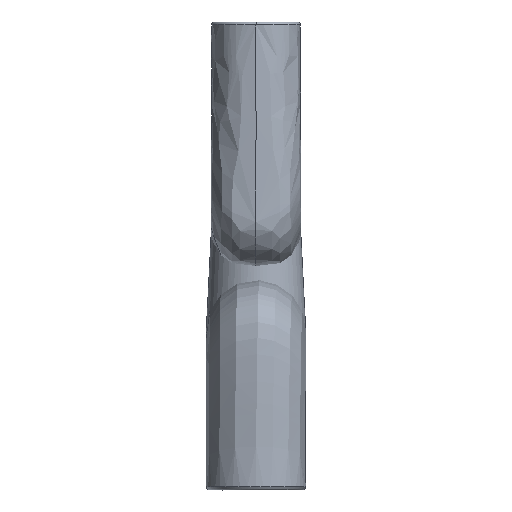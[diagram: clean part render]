
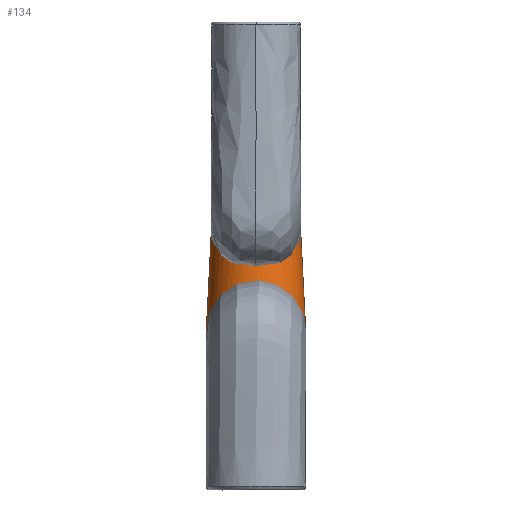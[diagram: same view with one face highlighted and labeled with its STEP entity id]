
A CAD part, left-side view. The second image highlights one B-rep face of the part: STEP entity #134.
In plain terms, the highlighted free-form (B-spline) face has degree [2, 1] with [5, 2] control points.
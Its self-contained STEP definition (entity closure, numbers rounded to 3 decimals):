
#134=ADVANCED_FACE('',(#275),#1949,.T.);
#275=FACE_OUTER_BOUND('',#416,.T.);
#416=EDGE_LOOP('',(#571,#572,#573,#574));
#571=ORIENTED_EDGE('',*,*,#1166,.T.);
#572=ORIENTED_EDGE('',*,*,#1168,.T.);
#573=ORIENTED_EDGE('',*,*,#1164,.F.);
#574=ORIENTED_EDGE('',*,*,#1163,.T.);
#1163=EDGE_CURVE('',#1778,#1780,#1476,.T.);
#1164=EDGE_CURVE('',#1778,#1779,#1477,.T.);
#1166=EDGE_CURVE('',#1780,#1781,#1479,.T.);
#1168=EDGE_CURVE('',#1781,#1779,#1481,.T.);
#1476=(
BOUNDED_CURVE()
B_SPLINE_CURVE(2,(#3004,#3005,#3006,#3007,#3008),.UNSPECIFIED.,.F.,.F.)
B_SPLINE_CURVE_WITH_KNOTS((3,2,3),(0.,79.166,158.332),
 .UNSPECIFIED.)
CURVE()
GEOMETRIC_REPRESENTATION_ITEM()
RATIONAL_B_SPLINE_CURVE((1.,0.707,1.,0.707,1.))
REPRESENTATION_ITEM('')
);
#1477=(
BOUNDED_CURVE()
B_SPLINE_CURVE(1,(#3009,#3010),.UNSPECIFIED.,.F.,.F.)
B_SPLINE_CURVE_WITH_KNOTS((2,2),(0.,106.943),.UNSPECIFIED.)
CURVE()
GEOMETRIC_REPRESENTATION_ITEM()
RATIONAL_B_SPLINE_CURVE((1.,1.))
REPRESENTATION_ITEM('')
);
#1479=(
BOUNDED_CURVE()
B_SPLINE_CURVE(1,(#3016,#3017),.UNSPECIFIED.,.F.,.F.)
B_SPLINE_CURVE_WITH_KNOTS((2,2),(0.,106.943),.UNSPECIFIED.)
CURVE()
GEOMETRIC_REPRESENTATION_ITEM()
RATIONAL_B_SPLINE_CURVE((1.,1.))
REPRESENTATION_ITEM('')
);
#1481=(
BOUNDED_CURVE()
B_SPLINE_CURVE(2,(#3023,#3024,#3025,#3026,#3027),.UNSPECIFIED.,.F.,.F.)
B_SPLINE_CURVE_WITH_KNOTS((3,2,3),(-158.332,-79.166,0.),
 .UNSPECIFIED.)
CURVE()
GEOMETRIC_REPRESENTATION_ITEM()
RATIONAL_B_SPLINE_CURVE((1.,0.707,1.,0.707,1.))
REPRESENTATION_ITEM('')
);
#1778=VERTEX_POINT('',#3000);
#1779=VERTEX_POINT('',#3001);
#1780=VERTEX_POINT('',#3002);
#1781=VERTEX_POINT('',#3003);
#1949=(
BOUNDED_SURFACE()
B_SPLINE_SURFACE(2,1,((#2980,#2981),(#2982,#2983),(#2984,#2985),(#2986,
#2987),(#2988,#2989)),.UNSPECIFIED.,.F.,.F.,.F.)
B_SPLINE_SURFACE_WITH_KNOTS((3,2,3),(2,2),(0.,79.166,158.332),
(0.,106.943),.UNSPECIFIED.)
GEOMETRIC_REPRESENTATION_ITEM()
RATIONAL_B_SPLINE_SURFACE(((1.,1.),(0.707,0.707),
(1.,1.),(0.707,0.707),(1.,1.)))
REPRESENTATION_ITEM('')
SURFACE()
);
#2980=CARTESIAN_POINT('',(171.681,15.912,338.3));
#2981=CARTESIAN_POINT('',(171.319,22.739,201.898));
#2982=CARTESIAN_POINT('',(114.199,16.271,338.3));
#2983=CARTESIAN_POINT('',(106.956,22.739,201.898));
#2984=CARTESIAN_POINT('',(113.837,-40.756,338.3));
#2985=CARTESIAN_POINT('',(106.956,-41.115,201.898));
#2986=CARTESIAN_POINT('',(113.476,-97.784,338.3));
#2987=CARTESIAN_POINT('',(106.956,-104.97,201.898));
#2988=CARTESIAN_POINT('',(170.958,-98.142,338.3));
#2989=CARTESIAN_POINT('',(171.319,-104.97,201.898));
#3000=CARTESIAN_POINT('',(171.681,15.912,338.3));
#3001=CARTESIAN_POINT('',(171.319,22.739,201.898));
#3002=CARTESIAN_POINT('',(170.958,-98.142,338.3));
#3003=CARTESIAN_POINT('',(171.319,-104.97,201.898));
#3004=CARTESIAN_POINT('',(171.681,15.912,338.3));
#3005=CARTESIAN_POINT('',(114.199,16.271,338.3));
#3006=CARTESIAN_POINT('',(113.837,-40.756,338.3));
#3007=CARTESIAN_POINT('',(113.476,-97.784,338.3));
#3008=CARTESIAN_POINT('',(170.958,-98.142,338.3));
#3009=CARTESIAN_POINT('',(171.681,15.912,338.3));
#3010=CARTESIAN_POINT('',(171.319,22.739,201.898));
#3016=CARTESIAN_POINT('',(170.958,-98.142,338.3));
#3017=CARTESIAN_POINT('',(171.319,-104.97,201.898));
#3023=CARTESIAN_POINT('',(171.319,-104.97,201.898));
#3024=CARTESIAN_POINT('',(106.956,-104.97,201.898));
#3025=CARTESIAN_POINT('',(106.956,-41.115,201.898));
#3026=CARTESIAN_POINT('',(106.956,22.739,201.898));
#3027=CARTESIAN_POINT('',(171.319,22.739,201.898));
